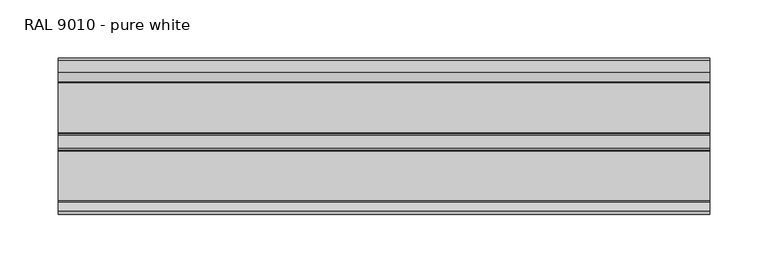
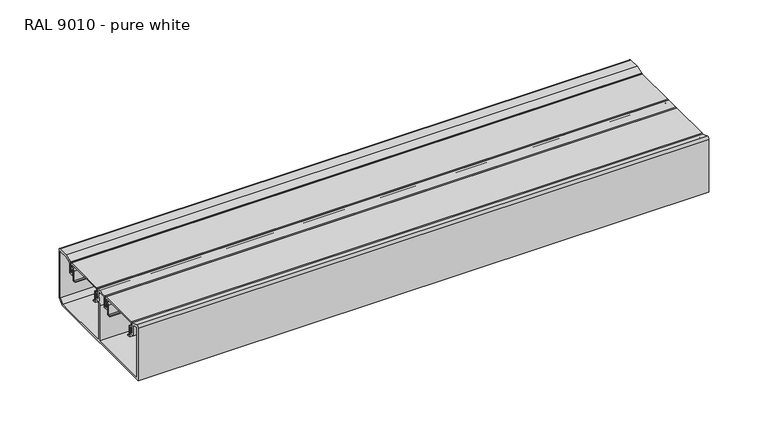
"""IFC4 building model written with IfcOpenShell, lengths in millimetres: proxy geometry, Electrical_Installations_Hager_GBD-Flat-Lid-End-Cap : RAL 9010 - pure white."""

from ifc_helpers import new_model, si_unit, point, frame, frame_2d, origin, place, context, project, spatial, polyline, circle_curve, trimmed, segment, composite_curve, outline, extrude, source, transform, mapped, element, save


def ral_9010_pure_white_c8628359(model_context):
    return source(origin(), model_context, "Body", "SweptSolid", [
        extrude(outline(composite_curve([segment(polyline([(-64.6976563, 54.0894343), (-64.6976563, 2.0), (-2.2476563, 2.0), (-2.2476563, 38.3324137), (-0.2476563, 49.6749773), (-0.2476563, 52.0), (-9.8476563, 52.0), (-9.8476563, 41.5012147), (-14.5382813, 41.5012147), (-14.5382813, 45.748101), (-13.5382813, 45.748101), (-13.5382813, 42.9887147), (-11.6476563, 42.9887147), (-11.6476563, 53.0031102)]), True, "CONTINUOUS"), segment(trimmed(circle_curve(frame_2d((-10.6507665, 53.0031102)), 0.9968898), [point((-11.6476563, 53.0031102))], [point((-10.6507665, 54.0))], False, "CARTESIAN"), True, "CONTINUOUS"), segment(polyline([(-10.6507665, 54.0), (0.7441474, 54.0)]), True, "CONTINUOUS"), segment(trimmed(circle_curve(frame_2d((0.7441474, 52.9918037)), 1.0081963), [point((0.7441474, 54.0))], [point((1.7523437, 52.9918037))], False, "CARTESIAN"), True, "CONTINUOUS"), segment(polyline([(1.7523437, 52.9918037), (1.7523437, 49.5), (0.6591165, 43.3), (3.2523437, 43.3), (3.2523437, 45.7537431), (4.2523437, 45.7537431), (4.2523437, 41.5), (0.3417279, 41.5), (-0.2476563, 38.1574364), (-0.2476563, 2.0), (60.5496526, 2.0), (64.5023437, 5.9526912), (64.5023437, 54.2), (54.8614746, 54.2), (48.5523437, 52.1500391), (48.5523437, 41.5), (44.2523437, 41.5), (44.2523437, 45.7556921), (45.2523437, 45.7556921), (45.2523437, 42.9887147), (46.7523437, 42.9887147), (46.7523437, 53.9835468), (54.4971904, 56.5), (64.8989144, 56.5)]), True, "CONTINUOUS"), segment(trimmed(circle_curve(frame_2d((64.8989144, 54.5965707)), 1.9034293), [point((64.8989144, 56.5))], [point((66.8023437, 54.5965707))], False, "CARTESIAN"), True, "CONTINUOUS"), segment(polyline([(66.8023437, 54.5965707), (66.8023437, 5.0), (61.8023437, 0.0), (-66.9976563, 0.0), (-66.9976563, 54.4045249)]), True, "CONTINUOUS"), segment(trimmed(circle_curve(frame_2d((-64.9278927, 54.4045249)), 2.0697636), [point((-66.9976563, 54.4045249))], [point((-64.2989994, 56.3764312))], False, "CARTESIAN"), True, "CONTINUOUS"), segment(polyline([(-64.2989994, 56.3764312), (-56.8429688, 53.998505), (-56.8429688, 42.9887147), (-54.6789063, 42.9887147), (-54.6789063, 45.7565885), (-53.6789063, 45.7565885), (-53.6789063, 41.5012147), (-58.4476563, 41.5012147), (-58.4476563, 52.0961433), (-64.6976563, 54.0894343)]), True, "CONTINUOUS")], self_intersect=False)), frame((0.0, 0.0, 0.0), z_axis=(1.0, 0.0, 0.0), x_axis=(0.0, 1.0, 0.0)), (0.0, 0.0, 1.0), 557.4107361),
        extrude(outline(composite_curve([segment(polyline([(-13.1613464, 52.5816445), (-55.0613464, 52.5816445), (-55.0613464, 49.2816445), (-53.7229555, 49.2816445)]), True, "CONTINUOUS"), segment(trimmed(circle_curve(frame_2d((-53.7229555, 47.1700354)), 2.1116091), [point((-53.7229555, 49.2816445))], [point((-51.6113464, 47.1700354))], False, "CARTESIAN"), True, "CONTINUOUS"), segment(polyline([(-51.6113464, 47.1700354), (-51.6113464, 37.6816445), (-49.7113464, 37.6816445), (-49.7113464, 36.8816445), (-52.6113464, 36.8816445), (-52.6113464, 47.3262929)]), True, "CONTINUOUS"), segment(trimmed(circle_curve(frame_2d((-53.566698, 47.3262929)), 0.9553516), [point((-52.6113464, 47.3262929))], [point((-53.566698, 48.2816445))], True, "CARTESIAN"), True, "CONTINUOUS"), segment(polyline([(-53.566698, 48.2816445), (-55.3644879, 48.2816445), (-55.3644879, 43.8012242), (-56.3660339, 43.8012242), (-56.3660339, 53.0900381)]), True, "CONTINUOUS"), segment(trimmed(circle_curve(frame_2d((-55.456072, 53.0900381)), 0.9099619), [point((-56.3660339, 53.0900381))], [point((-55.456072, 54.0))], False, "CARTESIAN"), True, "CONTINUOUS"), segment(polyline([(-55.456072, 54.0), (-12.9820268, 54.0)]), True, "CONTINUOUS"), segment(trimmed(circle_curve(frame_2d((-12.9820268, 52.9918196)), 1.0081804), [point((-12.9820268, 54.0))], [point((-11.9738464, 52.9918196))], False, "CARTESIAN"), True, "CONTINUOUS"), segment(polyline([(-11.9738464, 52.9918196), (-11.9738464, 43.8012242), (-12.858205, 43.8012242), (-12.858205, 48.2816445), (-14.6025892, 48.2816445)]), True, "CONTINUOUS"), segment(trimmed(circle_curve(frame_2d((-14.6025892, 47.2728873)), 1.0087572), [point((-14.6025892, 48.2816445))], [point((-15.6113464, 47.2728873))], True, "CARTESIAN"), True, "CONTINUOUS"), segment(polyline([(-15.6113464, 47.2728873), (-15.6113464, 36.8816445), (-18.5113464, 36.8816445), (-18.5113464, 37.6816445), (-16.6113464, 37.6816445), (-16.6113464, 47.3197896)]), True, "CONTINUOUS"), segment(trimmed(circle_curve(frame_2d((-14.6494915, 47.3197896)), 1.9618549), [point((-16.6113464, 47.3197896))], [point((-14.6494915, 49.2816445))], False, "CARTESIAN"), True, "CONTINUOUS"), segment(polyline([(-14.6494915, 49.2816445), (-13.1613464, 49.2816445), (-13.1613464, 52.5816445)]), True, "CONTINUOUS")], self_intersect=False)), frame((0.0, 0.0, 0.0), z_axis=(1.0, 0.0, 0.0), x_axis=(0.0, 1.0, 0.0)), (0.0, 0.0, 1.0), 557.4107361),
        extrude(outline(composite_curve([segment(polyline([(45.1923672, 52.5816445), (3.2923672, 52.5816445), (3.2923672, 49.2816445), (4.6307581, 49.2816445)]), True, "CONTINUOUS"), segment(trimmed(circle_curve(frame_2d((4.6307581, 47.1700354)), 2.1116091), [point((4.6307581, 49.2816445))], [point((6.7423672, 47.1700354))], False, "CARTESIAN"), True, "CONTINUOUS"), segment(polyline([(6.7423672, 47.1700354), (6.7423672, 37.6816445), (8.6423672, 37.6816445), (8.6423672, 36.8816445), (5.7423672, 36.8816445), (5.7423672, 47.3262929)]), True, "CONTINUOUS"), segment(trimmed(circle_curve(frame_2d((4.7870156, 47.3262929)), 0.9553516), [point((5.7423672, 47.3262929))], [point((4.7870156, 48.2816445))], True, "CARTESIAN"), True, "CONTINUOUS"), segment(polyline([(4.7870156, 48.2816445), (2.9892258, 48.2816445), (2.9892258, 43.8231023), (1.9876797, 43.8231023), (1.9876797, 53.0900381)]), True, "CONTINUOUS"), segment(trimmed(circle_curve(frame_2d((2.8976417, 53.0900381)), 0.9099619), [point((1.9876797, 53.0900381))], [point((2.8976417, 54.0))], False, "CARTESIAN"), True, "CONTINUOUS"), segment(polyline([(2.8976417, 54.0), (45.3716869, 54.0)]), True, "CONTINUOUS"), segment(trimmed(circle_curve(frame_2d((45.3716869, 52.9918196)), 1.0081804), [point((45.3716869, 54.0))], [point((46.3798672, 52.9918196))], False, "CARTESIAN"), True, "CONTINUOUS"), segment(polyline([(46.3798672, 52.9918196), (46.3798672, 43.9733035), (45.4955087, 43.9733035), (45.4955087, 48.2816445), (43.7511244, 48.2816445)]), True, "CONTINUOUS"), segment(trimmed(circle_curve(frame_2d((43.7511244, 47.2728873)), 1.0087572), [point((43.7511244, 48.2816445))], [point((42.7423672, 47.2728873))], True, "CARTESIAN"), True, "CONTINUOUS"), segment(polyline([(42.7423672, 47.2728873), (42.7423672, 36.8816445), (39.8423672, 36.8816445), (39.8423672, 37.6816445), (41.7423672, 37.6816445), (41.7423672, 47.3197896)]), True, "CONTINUOUS"), segment(trimmed(circle_curve(frame_2d((43.7042221, 47.3197896)), 1.9618549), [point((41.7423672, 47.3197896))], [point((43.7042221, 49.2816445))], False, "CARTESIAN"), True, "CONTINUOUS"), segment(polyline([(43.7042221, 49.2816445), (45.1923672, 49.2816445), (45.1923672, 52.5816445)]), True, "CONTINUOUS")], self_intersect=False)), frame((0.0, 0.0, 0.0), z_axis=(1.0, 0.0, 0.0), x_axis=(0.0, 1.0, 0.0)), (0.0, 0.0, 1.0), 557.4107361),
    ])


if __name__ == "__main__":
    model = new_model("IFC4")
    model_context = context("Model", 3, world=origin())
    ifc_project = project(units=[si_unit("LENGTHUNIT", "METRE", prefix="MILLI")], contexts=[model_context])
    site = spatial("IfcSite", under=ifc_project)
    building = spatial("IfcBuilding", under=site)
    placement = place(None, origin())
    ral_9010_pure_white_shape = ral_9010_pure_white_c8628359(model_context)
    element("IfcBuildingElementProxy", 1, Name="Electrical_Installations_Hager_GBD-Flat-Lid-End-Cap : RAL 9010 - pure white", ObjectType="Electrical_Installations_Hager_GBD-Flat-Lid-End-Cap : RAL 9010 - pure white", at=placement, inside=building, context=model_context, shape_type="MappedRepresentation", body=[
        mapped(ral_9010_pure_white_shape, transform((0.0, 0.0, 0.0), x_axis=(1.0, 0.0, 0.0), y_axis=(0.0, 1.0, 0.0), z_axis=(0.0, 0.0, 1.0))),
    ])
    save(model, "model.ifc")
